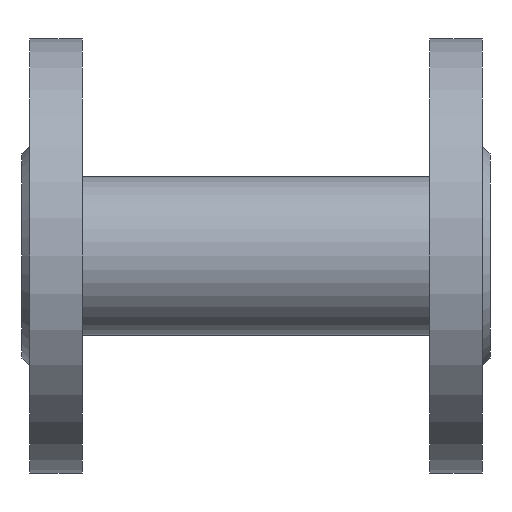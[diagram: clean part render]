
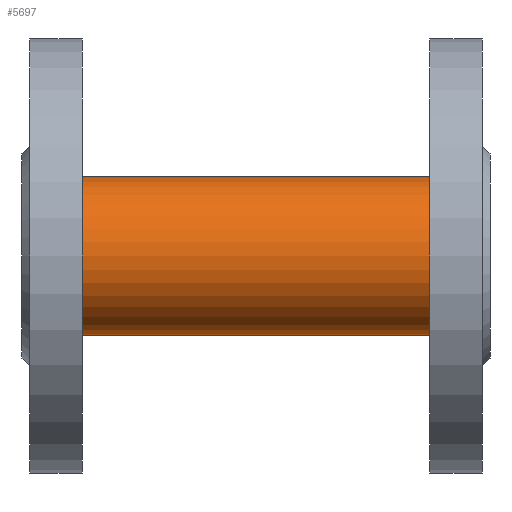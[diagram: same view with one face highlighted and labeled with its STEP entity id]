
A CAD part, front view. The second image highlights one B-rep face of the part: STEP entity #5697.
In plain terms, the highlighted cylindrical face has radius 21 mm (diameter 42 mm), a full revolution.
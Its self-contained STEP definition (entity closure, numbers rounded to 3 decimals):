
#1925=ELLIPSE('',#29330,29.698,21.);
#1926=ELLIPSE('',#29331,29.698,21.);
#1927=ELLIPSE('',#29332,29.698,21.);
#1928=ELLIPSE('',#29333,29.698,21.);
#2152=CYLINDRICAL_SURFACE('',#29336,21.);
#3135=FACE_BOUND('',#9742,.T.);
#3136=FACE_BOUND('',#9743,.T.);
#3137=FACE_BOUND('',#9744,.T.);
#4235=CIRCLE('',#29334,21.);
#4236=CIRCLE('',#29335,21.);
#5697=ADVANCED_FACE('',(#3135,#3136,#3137),#2152,.T.);
#9742=EDGE_LOOP('',(#15304,#15305,#15306,#15307,#15308,#15309));
#9743=EDGE_LOOP('',(#15310));
#9744=EDGE_LOOP('',(#15311));
#15304=ORIENTED_EDGE('',*,*,#22654,.T.);
#15305=ORIENTED_EDGE('',*,*,#22655,.T.);
#15306=ORIENTED_EDGE('',*,*,#22656,.T.);
#15307=ORIENTED_EDGE('',*,*,#22657,.T.);
#15308=ORIENTED_EDGE('',*,*,#22658,.T.);
#15309=ORIENTED_EDGE('',*,*,#22659,.T.);
#15310=ORIENTED_EDGE('',*,*,#22660,.F.);
#15311=ORIENTED_EDGE('',*,*,#22661,.F.);
#19406=VERTEX_POINT('',#47694);
#19407=VERTEX_POINT('',#47695);
#19408=VERTEX_POINT('',#47697);
#19409=VERTEX_POINT('',#47699);
#19410=VERTEX_POINT('',#47701);
#19411=VERTEX_POINT('',#47703);
#19412=VERTEX_POINT('',#47706);
#19413=VERTEX_POINT('',#47708);
#22654=EDGE_CURVE('',#19406,#19407,#1925,.T.);
#22655=EDGE_CURVE('',#19407,#19408,#1926,.T.);
#22656=EDGE_CURVE('',#19408,#19409,#25076,.T.);
#22657=EDGE_CURVE('',#19409,#19410,#1927,.T.);
#22658=EDGE_CURVE('',#19410,#19411,#1928,.T.);
#22659=EDGE_CURVE('',#19411,#19406,#25077,.T.);
#22660=EDGE_CURVE('',#19412,#19412,#4235,.T.);
#22661=EDGE_CURVE('',#19413,#19413,#4236,.T.);
#25076=LINE('',#47698,#27110);
#25077=LINE('',#47704,#27111);
#27110=VECTOR('',#34668,1.);
#27111=VECTOR('',#34673,1.);
#29330=AXIS2_PLACEMENT_3D('',#47693,#34664,#34665);
#29331=AXIS2_PLACEMENT_3D('',#47696,#34666,#34667);
#29332=AXIS2_PLACEMENT_3D('',#47700,#34669,#34670);
#29333=AXIS2_PLACEMENT_3D('',#47702,#34671,#34672);
#29334=AXIS2_PLACEMENT_3D('',#47705,#34674,#34675);
#29335=AXIS2_PLACEMENT_3D('',#47707,#34676,#34677);
#29336=AXIS2_PLACEMENT_3D('',#47709,#34678,#34679);
#34664=DIRECTION('',(-0.707,-0.707,0.));
#34665=DIRECTION('',(-0.707,0.707,0.));
#34666=DIRECTION('',(-0.707,-0.707,0.));
#34667=DIRECTION('',(-0.707,0.707,0.));
#34668=DIRECTION('',(1.,0.,0.));
#34669=DIRECTION('',(0.707,-0.707,0.));
#34670=DIRECTION('',(-0.707,-0.707,0.));
#34671=DIRECTION('',(0.707,-0.707,0.));
#34672=DIRECTION('',(-0.707,-0.707,0.));
#34673=DIRECTION('',(-1.,0.,0.));
#34674=DIRECTION('',(1.,0.,0.));
#34675=DIRECTION('',(0.,0.,1.));
#34676=DIRECTION('',(-1.,0.,0.));
#34677=DIRECTION('',(0.,0.,-1.));
#34678=DIRECTION('',(-1.,0.,0.));
#34679=DIRECTION('',(0.,0.,1.));
#47693=CARTESIAN_POINT('',(40.,-17.49,580.5));
#47694=CARTESIAN_POINT('',(20.,2.51,586.903));
#47695=CARTESIAN_POINT('',(19.,3.51,580.5));
#47696=CARTESIAN_POINT('',(40.,-17.49,580.5));
#47697=CARTESIAN_POINT('',(20.,2.51,574.097));
#47698=CARTESIAN_POINT('',(76.,2.51,574.097));
#47699=CARTESIAN_POINT('',(70.,2.51,574.097));
#47700=CARTESIAN_POINT('',(50.,-17.49,580.5));
#47701=CARTESIAN_POINT('',(71.,3.51,580.5));
#47702=CARTESIAN_POINT('',(50.,-17.49,580.5));
#47703=CARTESIAN_POINT('',(70.,2.51,586.903));
#47704=CARTESIAN_POINT('',(76.,2.51,586.903));
#47705=CARTESIAN_POINT('',(91.,-17.49,580.5));
#47706=CARTESIAN_POINT('',(91.,-17.49,601.5));
#47707=CARTESIAN_POINT('',(-1.,-17.49,580.5));
#47708=CARTESIAN_POINT('',(-1.,-17.49,559.5));
#47709=CARTESIAN_POINT('',(76.,-17.49,580.5));
